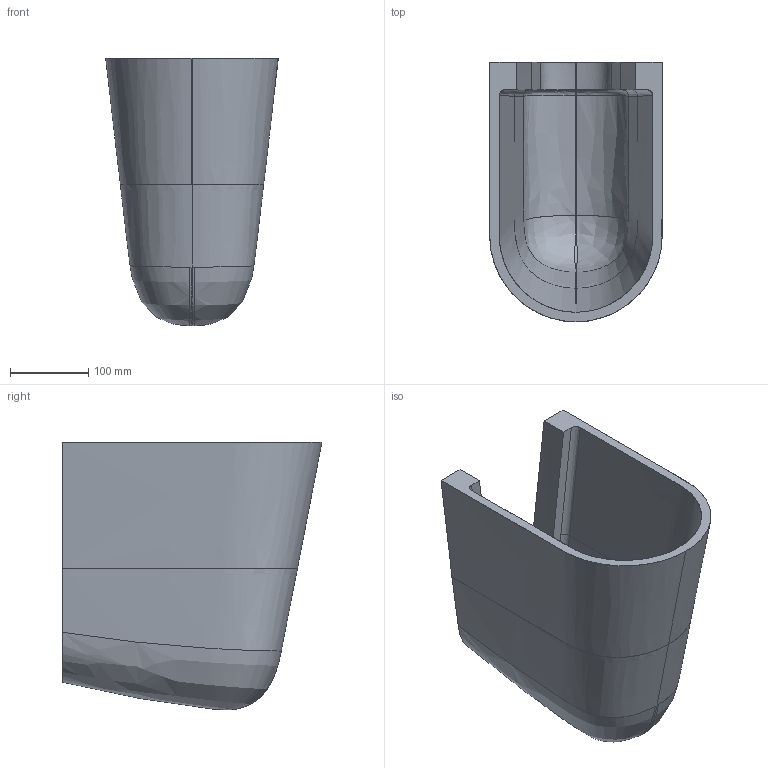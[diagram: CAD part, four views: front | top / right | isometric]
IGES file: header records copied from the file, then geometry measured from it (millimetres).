
Start section: START RECORD GO HERE.
Global section: file name: 3D SEMICOLONNA ERGO.igs; native system: DASSAULT SYSTEMES CATIA V5 R19 - www.3ds.com; preprocessor: CATIA Version 5 Release 19 SP 5 ; author: Luca; organization: DESKTOP-V7SON24; date: 20201023.103329; units: millimetre
Bounding box: 220 x 331 x 341.55 mm (x, y, z)
Surface area: 532707.8 mm2 (no closed solid volume)
Topology: 0 solids, 0 shells, 39 faces, 253 edges, 252 vertices
Faces by surface type: bspline 35, plane 3, revolution 1
